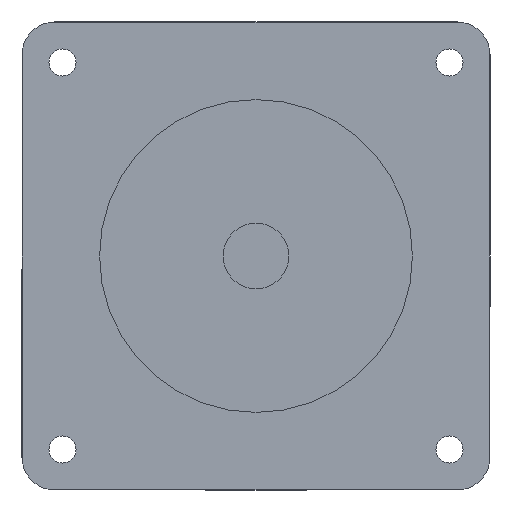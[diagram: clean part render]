
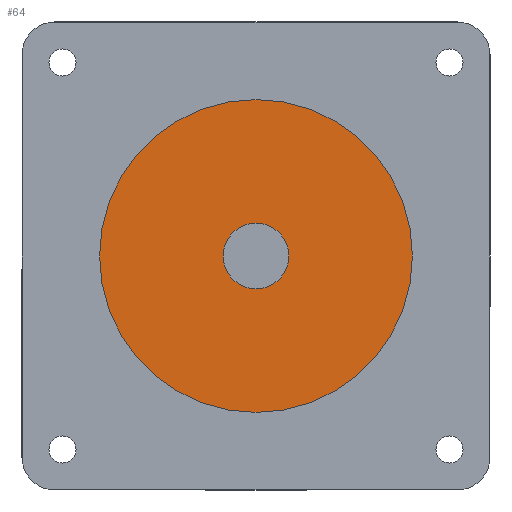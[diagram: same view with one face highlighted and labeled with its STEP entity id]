
A CAD part, front view. The second image highlights one B-rep face of the part: STEP entity #64.
In plain terms, the highlighted planar face has unit normal (0, -1, 0).
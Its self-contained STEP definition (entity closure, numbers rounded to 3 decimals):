
#7 = PLANE ( 'NONE',  #747 ) ;
#55 = CARTESIAN_POINT ( 'NONE',  ( 0., -58., -19.05 ) ) ;
#64 = ADVANCED_FACE ( 'NONE', ( #1579, #328 ), #7, .T. ) ;
#230 = CARTESIAN_POINT ( 'NONE',  ( 0., -58., 0. ) ) ;
#235 = CIRCLE ( 'NONE', #1452, 19.05 ) ;
#237 = CARTESIAN_POINT ( 'NONE',  ( 0., -58., -4. ) ) ;
#247 = VERTEX_POINT ( 'NONE', #237 ) ;
#267 = VERTEX_POINT ( 'NONE', #1689 ) ;
#278 = AXIS2_PLACEMENT_3D ( 'NONE', #230, #1340, #378 ) ;
#301 = CARTESIAN_POINT ( 'NONE',  ( 0., -58., 0. ) ) ;
#306 = EDGE_CURVE ( 'NONE', #2033, #247, #1694, .T. ) ;
#328 = FACE_OUTER_BOUND ( 'NONE', #1392, .T. ) ;
#362 = CARTESIAN_POINT ( 'NONE',  ( 0., -58., 4. ) ) ;
#378 = DIRECTION ( 'NONE',  ( 0., 0., -1. ) ) ;
#423 = DIRECTION ( 'NONE',  ( 0., 0., -1. ) ) ;
#582 = CARTESIAN_POINT ( 'NONE',  ( 0., -58., 0. ) ) ;
#600 = EDGE_CURVE ( 'NONE', #1036, #267, #235, .T. ) ;
#663 = DIRECTION ( 'NONE',  ( 0., -1., 0. ) ) ;
#684 = CIRCLE ( 'NONE', #278, 19.05 ) ;
#747 = AXIS2_PLACEMENT_3D ( 'NONE', #301, #663, #946 ) ;
#751 = CARTESIAN_POINT ( 'NONE',  ( 0., -58., 0. ) ) ;
#890 = ORIENTED_EDGE ( 'NONE', *, *, #1064, .T. ) ;
#907 = DIRECTION ( 'NONE',  ( 0., 0., -1. ) ) ;
#946 = DIRECTION ( 'NONE',  ( 0., 0., -1. ) ) ;
#1036 = VERTEX_POINT ( 'NONE', #55 ) ;
#1064 = EDGE_CURVE ( 'NONE', #267, #1036, #684, .T. ) ;
#1115 = ORIENTED_EDGE ( 'NONE', *, *, #600, .T. ) ;
#1243 = EDGE_CURVE ( 'NONE', #247, #2033, #1332, .T. ) ;
#1332 = CIRCLE ( 'NONE', #1688, 4. ) ;
#1340 = DIRECTION ( 'NONE',  ( 0., -1., 0. ) ) ;
#1392 = EDGE_LOOP ( 'NONE', ( #1115, #890 ) ) ;
#1393 = ORIENTED_EDGE ( 'NONE', *, *, #306, .F. ) ;
#1452 = AXIS2_PLACEMENT_3D ( 'NONE', #582, #1498, #423 ) ;
#1473 = DIRECTION ( 'NONE',  ( 0., -1., 0. ) ) ;
#1498 = DIRECTION ( 'NONE',  ( 0., -1., 0. ) ) ;
#1579 = FACE_BOUND ( 'NONE', #1656, .T. ) ;
#1625 = CARTESIAN_POINT ( 'NONE',  ( 0., -58., 0. ) ) ;
#1631 = ORIENTED_EDGE ( 'NONE', *, *, #1243, .F. ) ;
#1656 = EDGE_LOOP ( 'NONE', ( #1631, #1393 ) ) ;
#1688 = AXIS2_PLACEMENT_3D ( 'NONE', #751, #1886, #907 ) ;
#1689 = CARTESIAN_POINT ( 'NONE',  ( 0., -58., 19.05 ) ) ;
#1694 = CIRCLE ( 'NONE', #1698, 4. ) ;
#1698 = AXIS2_PLACEMENT_3D ( 'NONE', #1625, #1473, #1842 ) ;
#1842 = DIRECTION ( 'NONE',  ( 0., 0., -1. ) ) ;
#1886 = DIRECTION ( 'NONE',  ( 0., -1., 0. ) ) ;
#2033 = VERTEX_POINT ( 'NONE', #362 ) ;
